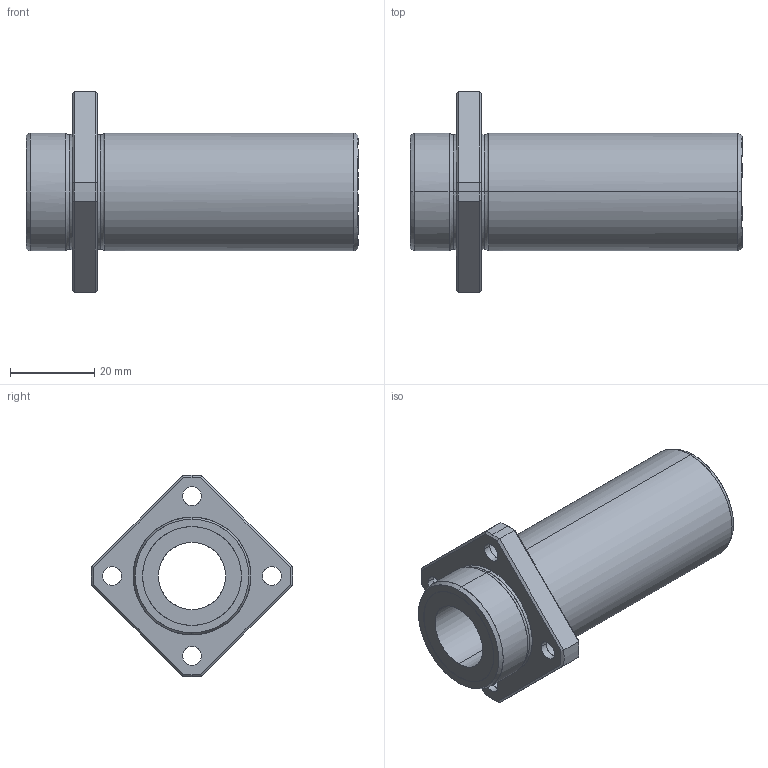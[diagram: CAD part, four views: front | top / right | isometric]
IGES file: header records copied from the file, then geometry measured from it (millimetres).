
Global section: file name: No Iges File Name specified; native system: AutoDesk Inventor R10; preprocessor: AutoDesk Inventor Iges Exporter R10; author: No Author specified; organization: No Organization specified; date: 20101216.153339; units: millimetre
Bounding box: 79 x 48 x 48 mm (x, y, z)
Surface area: 13843.2 mm2 (no closed solid volume)
Topology: 0 solids, 0 shells, 78 faces, 472 edges, 472 vertices
Faces by surface type: bspline 78
